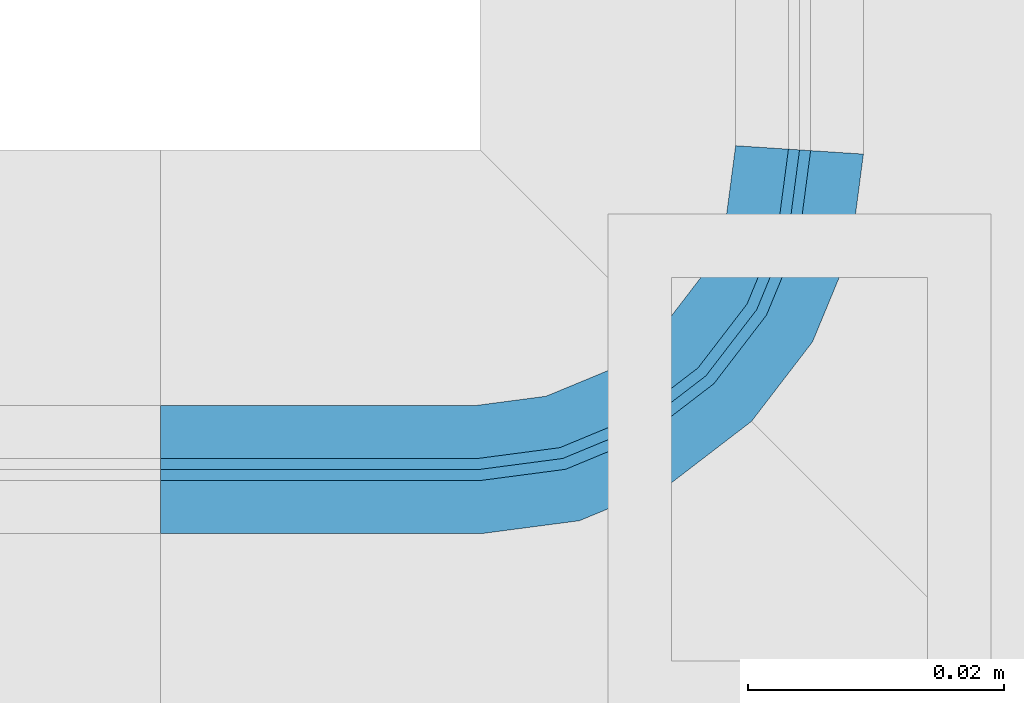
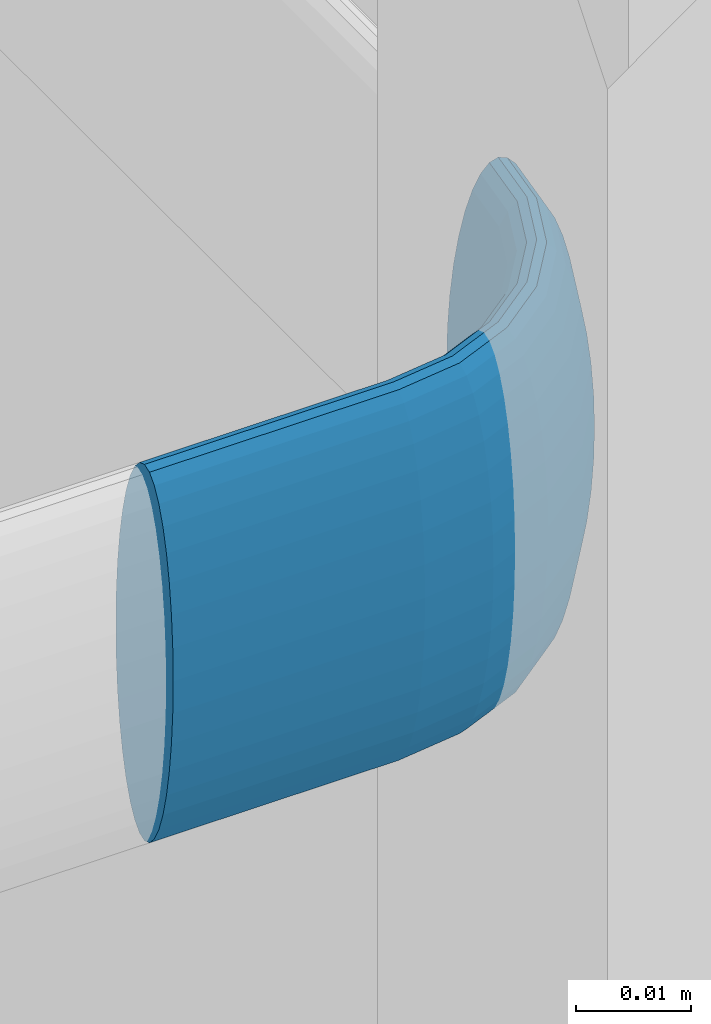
# One storey, part 82 of 418: 1 member, 1 element without a shape of its own.
"""IFC2X3 building model written with IfcOpenShell, lengths in millimetres."""

from ifc_helpers import new_model, entity, si_unit, converted_unit, derived_unit, money_unit, direction, frame, origin_with_axes, place, context, subcontext, project, spatial, faceted_brep, material, type_object, element, aggregate, save


model = new_model("IFC2X3")

# Units and contexts
model_context = context("Model", 3, precision=0.01, world=origin_with_axes(), true_north=direction((0.0, 1.0)))
body_context = subcontext(model_context, "Body", "Model", "MODEL_VIEW")
ifc_project = project(units=[si_unit("LENGTHUNIT", "METRE", prefix="MILLI"), si_unit("AREAUNIT", "SQUARE_METRE"), si_unit("VOLUMEUNIT", "CUBIC_METRE"), converted_unit("PLANEANGLEUNIT", "DEGREE", entity("IfcPlaneAngleMeasure", 0.0174532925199), si_unit("PLANEANGLEUNIT", "RADIAN"), dimensions=[0, 0, 0, 0, 0, 0, 0]), si_unit("SOLIDANGLEUNIT", "STERADIAN"), money_unit("EUR"), converted_unit("TIMEUNIT", "Year", entity("IfcTimeMeasure", 31556926.0), si_unit("TIMEUNIT", "SECOND"), dimensions=[0, 0, 1, 0, 0, 0, 0]), si_unit("MASSUNIT", "GRAM", prefix="KILO"), si_unit("THERMODYNAMICTEMPERATUREUNIT", "DEGREE_CELSIUS"), si_unit("LUMINOUSINTENSITYUNIT", "LUMEN"), si_unit("ENERGYUNIT", "JOULE", prefix="MEGA"), derived_unit("THERMALCONDUCTANCEUNIT", [(si_unit("POWERUNIT", "WATT"), 1), (si_unit("LENGTHUNIT", "METRE"), -1), (si_unit("THERMODYNAMICTEMPERATUREUNIT", "KELVIN"), -1)]), derived_unit("SPECIFICHEATCAPACITYUNIT", [(si_unit("ENERGYUNIT", "JOULE"), 1), (si_unit("MASSUNIT", "GRAM", prefix="KILO"), -1), (si_unit("THERMODYNAMICTEMPERATUREUNIT", "KELVIN"), -1)]), derived_unit("MASSDENSITYUNIT", [(si_unit("MASSUNIT", "GRAM", prefix="KILO"), 1), (si_unit("VOLUMEUNIT", "CUBIC_METRE"), -1)])], contexts=[model_context])

# Site, building, storey
site_placement = place(None, origin_with_axes())
site = spatial("IfcSite", under=ifc_project, at=site_placement, Name="Paldiski mnt 245/1, Tallinn, Harjumaa", CompositionType="COMPLEX")
building_placement = place(site_placement, origin_with_axes())
building = spatial("IfcBuilding", under=site, at=building_placement, Name="RKAS Hoone üldnimetus (kasutust iseloomustav) -> IFC Project Manager -> SOLIBRI", CompositionType="ELEMENT")
storey_placement = place(building_placement, origin_with_axes())
storey = spatial("IfcBuildingStorey", under=building, at=storey_placement, Name="Esimene korrus", CompositionType="ELEMENT", Elevation=0.0)

# Railing, member
railing_type = type_object("IfcRailingType", Name="Railing Type", PredefinedType="NOTDEFINED")
railing_placement = place(storey_placement, frame((-50030.6058534, -6155.24631697, 3600.0), z_axis=(0.0, 0.0, 1.0), x_axis=(-0.773149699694, -0.634223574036, 0.0)))
railing = element("IfcRailing", 1, at=railing_placement, inside=storey, type_object=railing_type, Name="PIIRE", PredefinedType="NOTDEFINED")
ifc_material = material(Name="ET-07_Teras - Roostevaba")
member_type = type_object("IfcMemberType", Name="IfcMember", PredefinedType="USERDEFINED")
member_placement = place(railing_placement, frame((0.0, 0.0, 0.0), z_axis=(0.0, 0.0, 1.0), x_axis=(-0.773149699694, 0.634223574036, 0.0)))
member = element("IfcMember", 2, at=member_placement, type_object=member_type, material=ifc_material, Name="RAIL CONNECTION - 001", ObjectType="Rail", context=body_context, shape_type="Brep", body=[
    faceted_brep([(-255.0, -1264.92403877, 403.472963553), (-255.0, -1265.0, 400.0), (-229.672282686, -1265.0, 400.0), (-229.677261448, -1264.92403877, 403.472963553), (-255.0, -1264.92403877, 396.527036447), (-255.0, -1264.6984631, 406.840402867), (-255.0, -1264.33012702, 410.0), (-255.0, -1263.83022222, 412.855752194), (-255.0, -1263.21393805, 415.320888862), (-255.0, -1262.5, 417.320508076), (-255.0, -1261.71010072, 418.793852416), (-255.0, -1260.86824089, 419.69615506), (-255.0, -1260.0, 420.0), (-255.0, -1259.13175911, 419.69615506), (-255.0, -1258.28989928, 418.793852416), (-255.0, -1257.5, 417.320508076), (-255.0, -1256.78606195, 415.320888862), (-255.0, -1256.16977778, 412.855752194), (-255.0, -1255.66987298, 410.0), (-255.0, -1255.3015369, 406.840402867), (-255.0, -1255.07596123, 403.472963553), (-255.0, -1255.0, 400.0), (-255.0, -1255.07596123, 396.527036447), (-255.0, -1255.3015369, 393.159597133), (-255.0, -1255.66987298, 390.0), (-255.0, -1256.16977778, 387.144247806), (-255.0, -1256.78606195, 384.679111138), (-255.0, -1257.5, 382.679491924), (-255.0, -1258.28989928, 381.206147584), (-255.0, -1259.13175911, 380.30384494), (-255.0, -1260.0, 380.0), (-255.0, -1260.86824089, 380.30384494), (-255.0, -1261.71010072, 381.206147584), (-255.0, -1262.5, 382.679491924), (-255.0, -1263.21393805, 384.679111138), (-255.0, -1263.83022222, 387.144247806), (-255.0, -1264.33012702, 390.0), (-255.0, -1264.6984631, 393.159597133), (-229.677261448, -1264.92403877, 396.527036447), (-222.244091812, -1263.94544342, 403.472963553), (-222.22426195, -1264.01944947, 400.0), (-229.692046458, -1264.6984631, 406.840402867), (-229.716188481, -1264.33012702, 410.0), (-229.748953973, -1263.83022222, 412.855752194), (-229.789347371, -1263.21393805, 415.320888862), (-229.836141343, -1262.5, 417.320508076), (-229.887914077, -1261.71010072, 418.793852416), (-229.943092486, -1260.86824089, 419.69615506), (-230.0, -1260.0, 420.0), (-230.056907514, -1259.13175911, 419.69615506), (-230.112085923, -1258.28989928, 418.793852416), (-230.163858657, -1257.5, 417.320508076), (-230.210652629, -1256.78606195, 415.320888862), (-230.251046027, -1256.16977778, 412.855752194), (-230.283811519, -1255.66987298, 410.0), (-230.307953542, -1255.3015369, 406.840402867), (-230.322738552, -1255.07596123, 403.472963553), (-230.327717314, -1255.0, 400.0), (-230.322738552, -1255.07596123, 396.527036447), (-230.307953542, -1255.3015369, 393.159597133), (-230.283811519, -1255.66987298, 390.0), (-230.251046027, -1256.16977778, 387.144247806), (-230.210652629, -1256.78606195, 384.679111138), (-230.163858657, -1257.5, 382.679491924), (-230.112085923, -1258.28989928, 381.206147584), (-230.056907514, -1259.13175911, 380.30384494), (-230.0, -1260.0, 380.0), (-229.943092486, -1260.86824089, 380.30384494), (-229.887914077, -1261.71010072, 381.206147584), (-229.836141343, -1262.5, 382.679491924), (-229.789347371, -1263.21393805, 384.679111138), (-229.748953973, -1263.83022222, 387.144247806), (-229.716188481, -1264.33012702, 390.0), (-229.692046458, -1264.6984631, 393.159597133), (-222.244091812, -1263.94544342, 396.527036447), (-222.302978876, -1263.7256739, 406.840402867), (-215.016735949, -1260.9517746, 403.472963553), (-214.978427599, -1261.01812661, 400.0), (-222.399133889, -1263.36681851, 410.0), (-222.52963523, -1262.87978087, 412.855752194), (-222.690517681, -1262.27935939, 415.320888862), (-222.876892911, -1261.58379756, 417.320508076), (-223.083098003, -1260.81422968, 418.793852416), (-223.302867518, -1259.99403869, 419.69615506), (-223.529523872, -1259.14814566, 420.0), (-223.756180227, -1258.30225263, 419.69615506), (-223.975949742, -1257.48206163, 418.793852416), (-224.182154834, -1256.71249375, 417.320508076), (-224.368530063, -1256.01693192, 415.320888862), (-224.529412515, -1255.41651044, 412.855752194), (-224.659913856, -1254.92947281, 410.0), (-224.756068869, -1254.57061741, 406.840402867), (-224.814955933, -1254.3508479, 403.472963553), (-224.834785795, -1254.27684185, 400.0), (-224.814955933, -1254.3508479, 396.527036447), (-224.756068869, -1254.57061741, 393.159597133), (-224.659913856, -1254.92947281, 390.0), (-224.529412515, -1255.41651044, 387.144247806), (-224.368530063, -1256.01693192, 384.679111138), (-224.182154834, -1256.71249375, 382.679491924), (-223.975949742, -1257.48206163, 381.206147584), (-223.756180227, -1258.30225263, 380.30384494), (-223.529523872, -1259.14814566, 380.0), (-223.302867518, -1259.99403869, 380.30384494), (-223.083098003, -1260.81422968, 381.206147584), (-222.876892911, -1261.58379756, 382.679491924), (-222.690517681, -1262.27935939, 384.679111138), (-222.52963523, -1262.87978087, 387.144247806), (-222.399133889, -1263.36681851, 390.0), (-222.302978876, -1263.7256739, 393.159597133), (-215.016735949, -1260.9517746, 396.527036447), (-215.130497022, -1260.75473464, 406.840402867), (-208.810464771, -1256.18953523, 403.472963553), (-208.756288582, -1256.24371142, 400.0), (-215.316254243, -1260.4329937, 410.0), (-215.568363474, -1259.9963277, 412.855752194), (-215.879164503, -1259.45800453, 415.320888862), (-216.239213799, -1258.83438085, 417.320508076), (-216.637571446, -1258.14440517, 418.793852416), (-217.062133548, -1257.40904204, 419.69615506), (-217.5, -1256.65063509, 420.0), (-217.937866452, -1255.89222815, 419.69615506), (-218.362428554, -1255.15686502, 418.793852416), (-218.760786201, -1254.46688934, 417.320508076), (-219.120835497, -1253.84326566, 415.320888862), (-219.431636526, -1253.30494249, 412.855752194), (-219.683745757, -1252.86827649, 410.0), (-219.869502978, -1252.54653555, 406.840402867), (-219.983264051, -1252.34949559, 403.472963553), (-220.021572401, -1252.28314358, 400.0), (-219.983264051, -1252.34949559, 396.527036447), (-219.869502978, -1252.54653555, 393.159597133), (-219.683745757, -1252.86827649, 390.0), (-219.431636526, -1253.30494249, 387.144247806), (-219.120835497, -1253.84326566, 384.679111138), (-218.760786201, -1254.46688934, 382.679491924), (-218.362428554, -1255.15686502, 381.206147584), (-217.937866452, -1255.89222815, 380.30384494), (-217.5, -1256.65063509, 380.0), (-217.062133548, -1257.40904204, 380.30384494), (-216.637571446, -1258.14440517, 381.206147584), (-216.239213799, -1258.83438085, 382.679491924), (-215.879164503, -1259.45800453, 384.679111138), (-215.568363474, -1259.9963277, 387.144247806), (-215.316254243, -1260.4329937, 390.0), (-215.130497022, -1260.75473464, 393.159597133), (-208.810464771, -1256.18953523, 396.527036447), (-208.971347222, -1256.02865278, 406.840402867), (-204.048225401, -1249.98326405, 403.472963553), (-203.981873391, -1250.0215724, 400.0), (-209.234047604, -1255.7659524, 410.0), (-209.590583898, -1255.4094161, 412.855752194), (-210.030122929, -1254.96987707, 415.320888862), (-210.539309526, -1254.46069047, 417.320508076), (-211.102672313, -1253.89732769, 418.793852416), (-211.703093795, -1253.29690621, 419.69615506), (-212.32233047, -1252.67766953, 420.0), (-212.941567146, -1252.05843285, 419.69615506), (-213.541988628, -1251.45801137, 418.793852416), (-214.105351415, -1250.89464859, 417.320508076), (-214.614538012, -1250.38546199, 415.320888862), (-215.054077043, -1249.94592296, 412.855752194), (-215.410613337, -1249.58938666, 410.0), (-215.673313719, -1249.32668628, 406.840402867), (-215.83419617, -1249.16580383, 403.472963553), (-215.888372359, -1249.11162764, 400.0), (-215.83419617, -1249.16580383, 396.527036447), (-215.673313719, -1249.32668628, 393.159597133), (-215.410613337, -1249.58938666, 390.0), (-215.054077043, -1249.94592296, 387.144247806), (-214.614538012, -1250.38546199, 384.679111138), (-214.105351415, -1250.89464859, 382.679491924), (-213.541988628, -1251.45801137, 381.206147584), (-212.941567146, -1252.05843285, 380.30384494), (-212.32233047, -1252.67766953, 380.0), (-211.703093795, -1253.29690621, 380.30384494), (-211.102672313, -1253.89732769, 381.206147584), (-210.539309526, -1254.46069047, 382.679491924), (-210.030122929, -1254.96987707, 384.679111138), (-209.590583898, -1255.4094161, 387.144247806), (-209.234047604, -1255.7659524, 390.0), (-208.971347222, -1256.02865278, 393.159597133), (-204.048225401, -1249.98326405, 396.527036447), (-204.245265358, -1249.86950298, 406.840402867), (-201.054556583, -1242.75590819, 403.472963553), (-200.980550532, -1242.77573805, 400.0), (-204.567006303, -1249.68374576, 410.0), (-205.003672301, -1249.43163653, 412.855752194), (-205.541995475, -1249.1208355, 415.320888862), (-206.165619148, -1248.7607862, 417.320508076), (-206.855594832, -1248.36242855, 418.793852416), (-207.590957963, -1247.93786645, 419.69615506), (-208.349364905, -1247.5, 420.0), (-209.107771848, -1247.06213355, 419.69615506), (-209.843134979, -1246.63757145, 418.793852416), (-210.533110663, -1246.2392138, 417.320508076), (-211.156734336, -1245.8791645, 415.320888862), (-211.69505751, -1245.56836347, 412.855752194), (-212.131723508, -1245.31625424, 410.0), (-212.453464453, -1245.13049702, 406.840402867), (-212.65050441, -1245.01673595, 403.472963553), (-212.71685642, -1244.9784276, 400.0), (-212.65050441, -1245.01673595, 396.527036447), (-212.453464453, -1245.13049702, 393.159597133), (-212.131723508, -1245.31625424, 390.0), (-211.69505751, -1245.56836347, 387.144247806), (-211.156734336, -1245.8791645, 384.679111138), (-210.533110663, -1246.2392138, 382.679491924), (-209.843134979, -1246.63757145, 381.206147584), (-209.107771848, -1247.06213355, 380.30384494), (-208.349364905, -1247.5, 380.0), (-207.590957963, -1247.93786645, 380.30384494), (-206.855594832, -1248.36242855, 381.206147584), (-206.165619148, -1248.7607862, 382.679491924), (-205.541995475, -1249.1208355, 384.679111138), (-205.003672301, -1249.43163653, 387.144247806), (-204.567006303, -1249.68374576, 390.0), (-204.245265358, -1249.86950298, 393.159597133), (-201.054556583, -1242.75590819, 396.527036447), (-201.274326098, -1242.69702112, 406.840402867), (-200.075961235, -1235.32273855, 403.472963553), (-200.0, -1235.32771731, 400.0), (-201.633181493, -1242.60086611, 410.0), (-202.120219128, -1242.47036477, 412.855752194), (-202.72064061, -1242.30948232, 415.320888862), (-203.416202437, -1242.12310709, 417.320508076), (-204.185770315, -1241.916902, 418.793852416), (-205.005961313, -1241.69713248, 419.69615506), (-205.851854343, -1241.47047613, 420.0), (-206.697747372, -1241.24381977, 419.69615506), (-207.51793837, -1241.02405026, 418.793852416), (-208.287506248, -1240.81784517, 417.320508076), (-208.983068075, -1240.63146994, 415.320888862), (-209.583489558, -1240.47058749, 412.855752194), (-210.070527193, -1240.34008614, 410.0), (-210.429382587, -1240.24393113, 406.840402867), (-210.649152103, -1240.18504407, 403.472963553), (-210.723158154, -1240.16521421, 400.0), (-210.649152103, -1240.18504407, 396.527036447), (-210.429382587, -1240.24393113, 393.159597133), (-210.070527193, -1240.34008614, 390.0), (-209.583489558, -1240.47058749, 387.144247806), (-208.983068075, -1240.63146994, 384.679111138), (-208.287506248, -1240.81784517, 382.679491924), (-207.51793837, -1241.02405026, 381.206147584), (-206.697747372, -1241.24381977, 380.30384494), (-205.851854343, -1241.47047613, 380.0), (-205.005961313, -1241.69713248, 380.30384494), (-204.185770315, -1241.916902, 381.206147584), (-203.416202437, -1242.12310709, 382.679491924), (-202.72064061, -1242.30948232, 384.679111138), (-202.120219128, -1242.47036477, 387.144247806), (-201.633181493, -1242.60086611, 390.0), (-201.274326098, -1242.69702112, 393.159597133), (-200.075961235, -1235.32273855, 396.527036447), (-200.301536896, -1235.30795354, 406.840402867), (-200.669872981, -1235.28381152, 410.0), (-200.301536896, -1235.30795354, 393.159597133), (-200.669872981, -1235.28381152, 390.0), (-201.169777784, -1235.25104603, 387.144247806), (-201.786061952, -1235.21065263, 384.679111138), (-202.5, -1235.16385866, 382.679491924), (-203.289899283, -1235.11208592, 381.206147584), (-204.131759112, -1235.05690751, 380.30384494), (-205.0, -1235.0, 380.0), (-205.868240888, -1234.94309249, 380.30384494), (-206.710100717, -1234.88791408, 381.206147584), (-207.5, -1234.83614134, 382.679491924), (-208.213938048, -1234.78934737, 384.679111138), (-208.830222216, -1234.74895397, 387.144247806), (-209.330127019, -1234.71618848, 390.0), (-209.698463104, -1234.69204646, 393.159597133), (-209.924038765, -1234.67726145, 396.527036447), (-210.0, -1234.67228269, 400.0), (-209.924038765, -1234.67726145, 403.472963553), (-209.698463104, -1234.69204646, 406.840402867), (-209.330127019, -1234.71618848, 410.0), (-208.830222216, -1234.74895397, 412.855752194), (-208.213938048, -1234.78934737, 415.320888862), (-207.5, -1234.83614134, 417.320508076), (-206.710100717, -1234.88791408, 418.793852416), (-205.868240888, -1234.94309249, 419.69615506), (-205.0, -1235.0, 420.0), (-204.131759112, -1235.05690751, 419.69615506), (-203.289899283, -1235.11208592, 418.793852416), (-202.5, -1235.16385866, 417.320508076), (-201.786061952, -1235.21065263, 415.320888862), (-201.169777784, -1235.25104603, 412.855752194)], [[[0, 1, 2, 3]], [[4, 1, 0, 5, 6, 7, 8, 9, 10, 11, 12, 13, 14, 15, 16, 17, 18, 19, 20, 21, 22, 23, 24, 25, 26, 27, 28, 29, 30, 31, 32, 33, 34, 35, 36, 37]], [[1, 4, 38, 2]], [[39, 3, 2, 40]], [[5, 0, 3, 41]], [[6, 5, 41, 42]], [[7, 6, 42, 43]], [[8, 7, 43, 44]], [[9, 8, 44, 45]], [[10, 9, 45, 46]], [[11, 10, 46, 47]], [[12, 11, 47, 48]], [[13, 12, 48, 49]], [[14, 13, 49, 50]], [[15, 14, 50, 51]], [[16, 15, 51, 52]], [[17, 16, 52, 53]], [[18, 17, 53, 54]], [[19, 18, 54, 55]], [[20, 19, 55, 56]], [[21, 20, 56, 57]], [[22, 21, 57, 58]], [[23, 22, 58, 59]], [[24, 23, 59, 60]], [[25, 24, 60, 61]], [[26, 25, 61, 62]], [[27, 26, 62, 63]], [[28, 27, 63, 64]], [[29, 28, 64, 65]], [[30, 29, 65, 66]], [[31, 30, 66, 67]], [[32, 31, 67, 68]], [[33, 32, 68, 69]], [[34, 33, 69, 70]], [[35, 34, 70, 71]], [[36, 35, 71, 72]], [[37, 36, 72, 73]], [[4, 37, 73, 38]], [[40, 2, 38, 74]], [[75, 41, 3, 39]], [[76, 39, 40, 77]], [[78, 42, 41, 75]], [[79, 43, 42, 78]], [[80, 44, 43, 79]], [[81, 45, 44, 80]], [[82, 46, 45, 81]], [[83, 47, 46, 82]], [[84, 48, 47, 83]], [[85, 49, 48, 84]], [[86, 50, 49, 85]], [[87, 51, 50, 86]], [[88, 52, 51, 87]], [[89, 53, 52, 88]], [[90, 54, 53, 89]], [[91, 55, 54, 90]], [[92, 56, 55, 91]], [[93, 57, 56, 92]], [[94, 58, 57, 93]], [[95, 59, 58, 94]], [[96, 60, 59, 95]], [[97, 61, 60, 96]], [[98, 62, 61, 97]], [[99, 63, 62, 98]], [[100, 64, 63, 99]], [[101, 65, 64, 100]], [[102, 66, 65, 101]], [[103, 67, 66, 102]], [[104, 68, 67, 103]], [[105, 69, 68, 104]], [[106, 70, 69, 105]], [[107, 71, 70, 106]], [[108, 72, 71, 107]], [[109, 73, 72, 108]], [[74, 38, 73, 109]], [[77, 40, 74, 110]], [[111, 75, 39, 76]], [[112, 76, 77, 113]], [[114, 78, 75, 111]], [[115, 79, 78, 114]], [[116, 80, 79, 115]], [[117, 81, 80, 116]], [[118, 82, 81, 117]], [[119, 83, 82, 118]], [[120, 84, 83, 119]], [[121, 85, 84, 120]], [[122, 86, 85, 121]], [[123, 87, 86, 122]], [[124, 88, 87, 123]], [[125, 89, 88, 124]], [[126, 90, 89, 125]], [[127, 91, 90, 126]], [[128, 92, 91, 127]], [[129, 93, 92, 128]], [[130, 94, 93, 129]], [[131, 95, 94, 130]], [[132, 96, 95, 131]], [[133, 97, 96, 132]], [[134, 98, 97, 133]], [[135, 99, 98, 134]], [[136, 100, 99, 135]], [[137, 101, 100, 136]], [[138, 102, 101, 137]], [[139, 103, 102, 138]], [[140, 104, 103, 139]], [[141, 105, 104, 140]], [[142, 106, 105, 141]], [[143, 107, 106, 142]], [[144, 108, 107, 143]], [[145, 109, 108, 144]], [[110, 74, 109, 145]], [[113, 77, 110, 146]], [[147, 111, 76, 112]], [[148, 112, 113, 149]], [[150, 114, 111, 147]], [[151, 115, 114, 150]], [[152, 116, 115, 151]], [[153, 117, 116, 152]], [[154, 118, 117, 153]], [[155, 119, 118, 154]], [[156, 120, 119, 155]], [[157, 121, 120, 156]], [[158, 122, 121, 157]], [[159, 123, 122, 158]], [[160, 124, 123, 159]], [[161, 125, 124, 160]], [[162, 126, 125, 161]], [[163, 127, 126, 162]], [[164, 128, 127, 163]], [[165, 129, 128, 164]], [[166, 130, 129, 165]], [[167, 131, 130, 166]], [[168, 132, 131, 167]], [[169, 133, 132, 168]], [[170, 134, 133, 169]], [[171, 135, 134, 170]], [[172, 136, 135, 171]], [[173, 137, 136, 172]], [[174, 138, 137, 173]], [[175, 139, 138, 174]], [[176, 140, 139, 175]], [[177, 141, 140, 176]], [[178, 142, 141, 177]], [[179, 143, 142, 178]], [[180, 144, 143, 179]], [[181, 145, 144, 180]], [[146, 110, 145, 181]], [[149, 113, 146, 182]], [[183, 147, 112, 148]], [[184, 148, 149, 185]], [[186, 150, 147, 183]], [[187, 151, 150, 186]], [[188, 152, 151, 187]], [[189, 153, 152, 188]], [[190, 154, 153, 189]], [[191, 155, 154, 190]], [[192, 156, 155, 191]], [[193, 157, 156, 192]], [[194, 158, 157, 193]], [[195, 159, 158, 194]], [[196, 160, 159, 195]], [[197, 161, 160, 196]], [[198, 162, 161, 197]], [[199, 163, 162, 198]], [[200, 164, 163, 199]], [[201, 165, 164, 200]], [[202, 166, 165, 201]], [[203, 167, 166, 202]], [[204, 168, 167, 203]], [[205, 169, 168, 204]], [[206, 170, 169, 205]], [[207, 171, 170, 206]], [[208, 172, 171, 207]], [[209, 173, 172, 208]], [[210, 174, 173, 209]], [[211, 175, 174, 210]], [[212, 176, 175, 211]], [[213, 177, 176, 212]], [[214, 178, 177, 213]], [[215, 179, 178, 214]], [[216, 180, 179, 215]], [[217, 181, 180, 216]], [[182, 146, 181, 217]], [[185, 149, 182, 218]], [[219, 183, 148, 184]], [[220, 184, 185, 221]], [[222, 186, 183, 219]], [[223, 187, 186, 222]], [[224, 188, 187, 223]], [[225, 189, 188, 224]], [[226, 190, 189, 225]], [[227, 191, 190, 226]], [[228, 192, 191, 227]], [[229, 193, 192, 228]], [[230, 194, 193, 229]], [[231, 195, 194, 230]], [[232, 196, 195, 231]], [[233, 197, 196, 232]], [[234, 198, 197, 233]], [[235, 199, 198, 234]], [[236, 200, 199, 235]], [[237, 201, 200, 236]], [[238, 202, 201, 237]], [[239, 203, 202, 238]], [[240, 204, 203, 239]], [[241, 205, 204, 240]], [[242, 206, 205, 241]], [[243, 207, 206, 242]], [[244, 208, 207, 243]], [[245, 209, 208, 244]], [[246, 210, 209, 245]], [[247, 211, 210, 246]], [[248, 212, 211, 247]], [[249, 213, 212, 248]], [[250, 214, 213, 249]], [[251, 215, 214, 250]], [[252, 216, 215, 251]], [[253, 217, 216, 252]], [[218, 182, 217, 253]], [[221, 185, 218, 254]], [[255, 219, 184, 220]], [[256, 255, 220, 221, 254, 257, 258, 259, 260, 261, 262, 263, 264, 265, 266, 267, 268, 269, 270, 271, 272, 273, 274, 275, 276, 277, 278, 279, 280, 281, 282, 283, 284, 285, 286, 287]], [[256, 222, 219, 255]], [[287, 223, 222, 256]], [[286, 224, 223, 287]], [[285, 225, 224, 286]], [[284, 226, 225, 285]], [[283, 227, 226, 284]], [[282, 228, 227, 283]], [[281, 229, 228, 282]], [[280, 230, 229, 281]], [[279, 231, 230, 280]], [[278, 232, 231, 279]], [[277, 233, 232, 278]], [[276, 234, 233, 277]], [[275, 235, 234, 276]], [[274, 236, 235, 275]], [[273, 237, 236, 274]], [[272, 238, 237, 273]], [[271, 239, 238, 272]], [[270, 240, 239, 271]], [[269, 241, 240, 270]], [[268, 242, 241, 269]], [[267, 243, 242, 268]], [[266, 244, 243, 267]], [[265, 245, 244, 266]], [[264, 246, 245, 265]], [[263, 247, 246, 264]], [[262, 248, 247, 263]], [[261, 249, 248, 262]], [[260, 250, 249, 261]], [[259, 251, 250, 260]], [[258, 252, 251, 259]], [[257, 253, 252, 258]], [[254, 218, 253, 257]]]),
])
aggregate(railing, [member])

save(model, "model.ifc")
